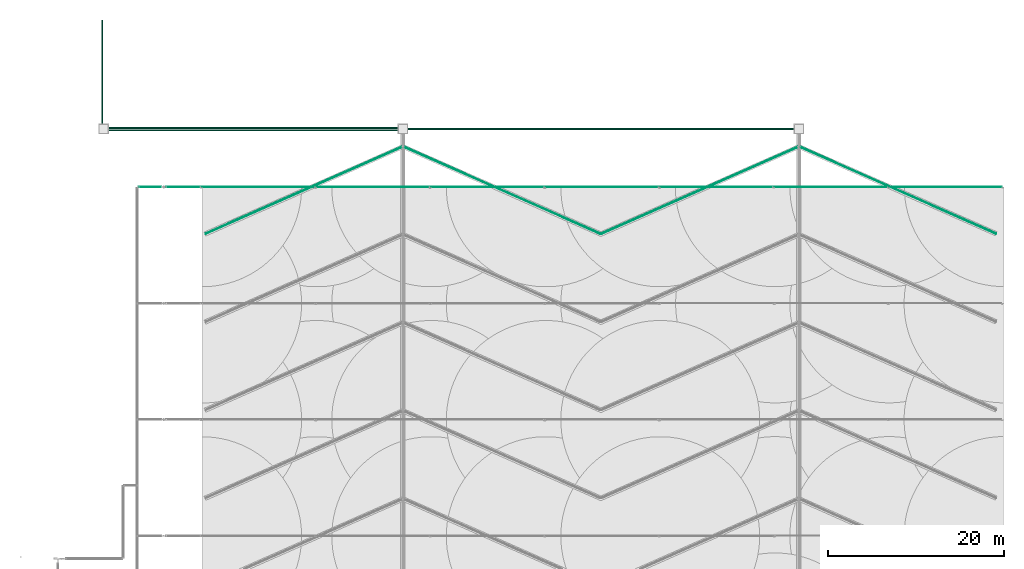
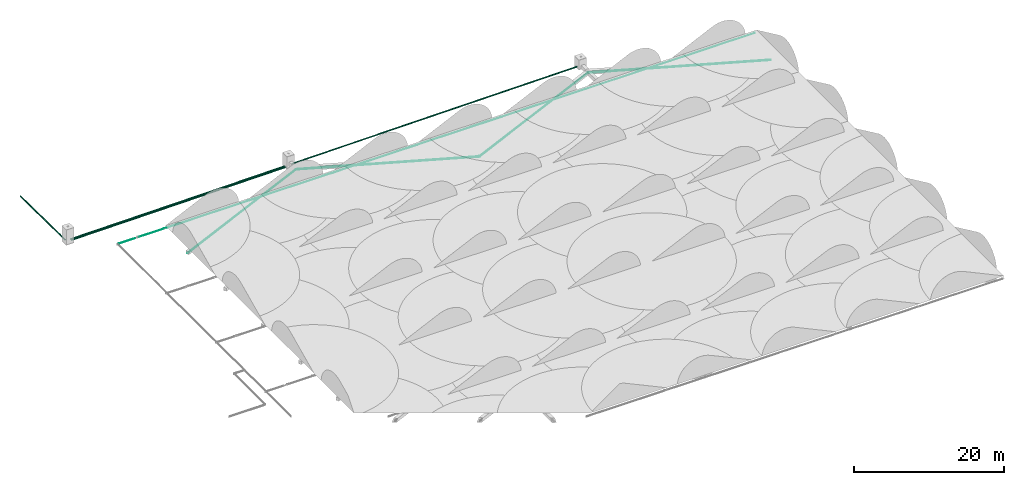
# One storey, part 44 of 166: 17 flow segments.
"""IFC2X3 building model written with IfcOpenShell, lengths in metres."""

from ifc_helpers import new_model, entity, si_unit, converted_unit, direction, frame, frame_2d, origin, origin_2d_with_axis, place, context, subcontext, project, spatial, circle, extrude, type_object, element, save


model = new_model("IFC2X3")

# Units and contexts
model_context = context("Model", 3, precision=1e-05, world=origin(), true_north=direction((6.123233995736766e-17, 1.0)))
body_context = subcontext(model_context, "Body", "Model", "MODEL_VIEW")
ifc_project = project(units=[si_unit("LENGTHUNIT", "METRE"), converted_unit("PLANEANGLEUNIT", "DEGREE", entity("IfcPlaneAngleMeasure", 0.017453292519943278), si_unit("PLANEANGLEUNIT", "RADIAN"), dimensions=[0, 0, 0, 0, 0, 0, 0]), si_unit("AREAUNIT", "SQUARE_METRE")], contexts=[model_context])

# Site, building, storey
site_placement = place(None, origin())
site = spatial("IfcSite", under=ifc_project, at=site_placement, Name="Default", CompositionType="ELEMENT")
building_placement = place(site_placement, origin())
building = spatial("IfcBuilding", under=site, at=building_placement, Name="CASA DE ACOLHIDA PARA IDOSOS", CompositionType="ELEMENT")
storey_placement = place(building_placement, frame((0.0, 0.0, -1.7499999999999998)))
storey = spatial("IfcBuildingStorey", under=building, at=storey_placement, Name="IMPLANTAÇÃO DRENAGEM", CompositionType="ELEMENT", Elevation=-1.7499999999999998)

# Flow segments
pipe_segment_type_1 = type_object("IfcPipeSegmentType", Name="Tipos de tubos:PLUV_Tubo PEAD Corrugado", PredefinedType="NOTDEFINED")
flow_segment_1_placement = place(storey_placement, origin())
element("IfcFlowSegment", 1, at=flow_segment_1_placement, inside=storey, type_object=pipe_segment_type_1, Name="Tipos de tubos:PLUV_Tubo PEAD Corrugado", ObjectType="Tipos de tubos:PLUV_Tubo PEAD Corrugado", context=body_context, shape_type="SweptSolid", body=[
    extrude(circle(Radius=0.05, at=frame_2d((-3.5042028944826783e-15, -7.922169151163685e-17), x_axis=(1.0, 0.0))), frame((45.35555726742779, 43.953057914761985, -1.1500099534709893), z_axis=(-0.9144899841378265, 0.404484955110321, -0.009999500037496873), x_axis=(0.40450517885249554, 0.9145357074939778, 0.0)), (0.0, 0.0, 1.0), 24.48022857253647),
])
flow_segment_2_placement = place(storey_placement, origin())
element("IfcFlowSegment", 2, at=flow_segment_2_placement, inside=storey, type_object=pipe_segment_type_1, Name="Tipos de tubos:PLUV_Tubo PEAD Corrugado", ObjectType="Tipos de tubos:PLUV_Tubo PEAD Corrugado", context=body_context, shape_type="SweptSolid", body=[
    extrude(circle(Radius=0.05, at=origin_2d_with_axis()), frame((22.968633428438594, 53.854942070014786, -1.3947999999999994), z_axis=(-0.9144899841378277, -0.4044849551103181, 0.009999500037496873), x_axis=(0.4045051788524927, -0.9145357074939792, 0.0)), (0.0, 0.0, 1.0), 24.480228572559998),
])
flow_segment_3_placement = place(storey_placement, origin())
element("IfcFlowSegment", 3, at=flow_segment_3_placement, inside=storey, type_object=pipe_segment_type_1, Name="Tipos de tubos:PLUV_Tubo PEAD Corrugado", ObjectType="Tipos de tubos:PLUV_Tubo PEAD Corrugado", context=body_context, shape_type="SweptSolid", body=[
    extrude(circle(Radius=0.05, at=frame_2d((-2.7376585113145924e-17, -6.189194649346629e-19), x_axis=(1.0, 0.0))), frame((0.4055572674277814, 43.95305791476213, -1.1500099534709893), z_axis=(-0.9144899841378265, 0.404484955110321, -0.009999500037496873), x_axis=(0.40450517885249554, 0.9145357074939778, 0.0)), (0.0, 0.0, 1.0), 24.48022857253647),
])
flow_segment_4_placement = place(storey_placement, origin())
element("IfcFlowSegment", 4, at=flow_segment_4_placement, inside=storey, type_object=pipe_segment_type_1, Name="Tipos de tubos:PLUV_Tubo PEAD Corrugado", ObjectType="Tipos de tubos:PLUV_Tubo PEAD Corrugado", context=body_context, shape_type="SweptSolid", body=[
    extrude(circle(Radius=0.05, at=frame_2d((-7.922565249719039e-15, 3.5040276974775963e-17), x_axis=(1.0, 0.0))), frame((-21.981366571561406, 53.85494207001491, -1.3947999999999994), z_axis=(-0.9144899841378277, -0.4044849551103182, 0.009999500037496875), x_axis=(0.40450517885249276, -0.9145357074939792, 0.0)), (0.0, 0.0, 1.0), 24.480228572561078),
])
pipe_segment_type_2 = type_object("IfcPipeSegmentType", Name="Tipos de tubos:PLUV_Tubo Série Reforçada", PredefinedType="NOTDEFINED")
flow_segment_5_placement = place(storey_placement, origin())
element("IfcFlowSegment", 5, at=flow_segment_5_placement, inside=storey, type_object=pipe_segment_type_2, Name="Tipos de tubos:PLUV_Tubo Série Reforçada", ObjectType="Tipos de tubos:PLUV_Tubo Série Reforçada", context=body_context, shape_type="SweptSolid", body=[
    extrude(circle(Radius=0.07500000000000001, at=origin_2d_with_axis()), frame((-21.491670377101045, 55.8417200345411, -1.8579217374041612), z_axis=(0.9999500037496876, 0.0, 0.0099995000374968), x_axis=(0.0, 1.0, 0.0)), (0.0, 0.0, 1.0), 43.97195522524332),
])
flow_segment_6_placement = place(storey_placement, origin())
element("IfcFlowSegment", 6, at=flow_segment_6_placement, inside=storey, type_object=pipe_segment_type_2, Name="Tipos de tubos:PLUV_Tubo Série Reforçada", ObjectType="Tipos de tubos:PLUV_Tubo Série Reforçada", context=body_context, shape_type="SweptSolid", body=[
    extrude(circle(Radius=0.07500000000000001, at=origin_2d_with_axis()), frame((-55.468366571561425, 55.954692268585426, -2.2879), z_axis=(0.9999500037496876, 0.0, 0.009999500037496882), x_axis=(0.0, 1.0, 0.0)), (0.0, 0.0, 1.0), 33.00164995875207),
])
flow_segment_7_placement = place(storey_placement, origin())
element("IfcFlowSegment", 7, at=flow_segment_7_placement, inside=storey, type_object=pipe_segment_type_2, Name="Tipos de tubos:PLUV_Tubo Série Reforçada", ObjectType="Tipos de tubos:PLUV_Tubo Série Reforçada", context=body_context, shape_type="SweptSolid", body=[
    extrude(circle(Radius=0.07500000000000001, at=frame_2d((0.0, 8.66250392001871e-17), x_axis=(1.0, 0.0))), frame((-56.11636657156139, 68.21669226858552, -2.5068045), z_axis=(0.0, -0.9999500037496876, 0.009999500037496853), x_axis=(1.0, 0.0, 0.0)), (0.0, 0.0, 1.0), 11.89104450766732),
])
flow_segment_8_placement = place(storey_placement, origin())
element("IfcFlowSegment", 8, at=flow_segment_8_placement, inside=storey, type_object=pipe_segment_type_2, Name="Tipos de tubos:PLUV_Tubo Série Reforçada", ObjectType="Tipos de tubos:PLUV_Tubo Série Reforçada", context=body_context, shape_type="SweptSolid", body=[
    extrude(circle(Radius=0.07500000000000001, at=origin_2d_with_axis()), frame((-55.468366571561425, 55.694692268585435, -2.2879), z_axis=(0.9999500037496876, 0.0, 0.009999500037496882), x_axis=(0.0, 1.0, 0.0)), (0.0, 0.0, 1.0), 33.00164995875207),
])
pipe_segment_type_3 = type_object("IfcPipeSegmentType", Name="Tipos de tubos:AF_Tubo Marrom Soldável", PredefinedType="NOTDEFINED")
flow_segment_9_placement = place(storey_placement, origin())
element("IfcFlowSegment", 9, at=flow_segment_9_placement, inside=storey, type_object=pipe_segment_type_3, Name="Tipos de tubos:AF_Tubo Marrom Soldável", ObjectType="Tipos de tubos:AF_Tubo Marrom Soldável", context=body_context, shape_type="SweptSolid", body=[
    extrude(circle(Radius=0.025, at=frame_2d((0.0, -2.707167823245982e-16), x_axis=(1.0, 0.0))), frame((-51.954303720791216, 49.254942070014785, -0.2000000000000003), z_axis=(1.0, 0.0, 0.0), x_axis=(0.0, -1.0, 0.0)), (0.0, 0.0, 1.0), 2.5378500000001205),
])
flow_segment_10_placement = place(storey_placement, origin())
element("IfcFlowSegment", 10, at=flow_segment_10_placement, inside=storey, type_object=pipe_segment_type_3, Name="Tipos de tubos:AF_Tubo Marrom Soldável", ObjectType="Tipos de tubos:AF_Tubo Marrom Soldável", context=body_context, shape_type="SweptSolid", body=[
    extrude(circle(Radius=0.025, at=frame_2d((0.0, -2.707167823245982e-16), x_axis=(1.0, 0.0))), frame((-48.842341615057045, 49.254942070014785, -0.2000000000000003), z_axis=(1.0, 0.0, 0.0), x_axis=(0.0, -1.0, 0.0)), (0.0, 0.0, 1.0), 3.8187927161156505),
])
flow_segment_11_placement = place(storey_placement, origin())
element("IfcFlowSegment", 11, at=flow_segment_11_placement, inside=storey, type_object=pipe_segment_type_3, Name="Tipos de tubos:AF_Tubo Marrom Soldável", ObjectType="Tipos de tubos:AF_Tubo Marrom Soldável", context=body_context, shape_type="SweptSolid", body=[
    extrude(circle(Radius=0.025, at=frame_2d((0.0, -2.707167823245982e-16), x_axis=(1.0, 0.0))), frame((-44.958348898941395, 49.254942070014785, -0.19999999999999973), z_axis=(1.0, 0.0, 0.0), x_axis=(0.0, -1.0, 0.0)), (0.0, 0.0, 1.0), 12.934799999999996),
])
flow_segment_12_placement = place(storey_placement, origin())
element("IfcFlowSegment", 12, at=flow_segment_12_placement, inside=storey, type_object=pipe_segment_type_3, Name="Tipos de tubos:AF_Tubo Marrom Soldável", ObjectType="Tipos de tubos:AF_Tubo Marrom Soldável", context=body_context, shape_type="SweptSolid", body=[
    extrude(circle(Radius=0.025, at=frame_2d((0.0, -2.707167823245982e-16), x_axis=(1.0, 0.0))), frame((-31.958348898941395, 49.25494207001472, -0.19999999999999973), z_axis=(1.0, 0.0, 0.0), x_axis=(0.0, -1.0, 0.0)), (0.0, 0.0, 1.0), 12.9348),
])
flow_segment_13_placement = place(storey_placement, origin())
element("IfcFlowSegment", 13, at=flow_segment_13_placement, inside=storey, type_object=pipe_segment_type_3, Name="Tipos de tubos:AF_Tubo Marrom Soldável", ObjectType="Tipos de tubos:AF_Tubo Marrom Soldável", context=body_context, shape_type="SweptSolid", body=[
    extrude(circle(Radius=0.025, at=frame_2d((0.0, -2.707167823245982e-16), x_axis=(1.0, 0.0))), frame((-18.958348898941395, 49.25494207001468, -0.19999999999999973), z_axis=(1.0, 0.0, 0.0), x_axis=(0.0, -1.0, 0.0)), (0.0, 0.0, 1.0), 12.9348),
])
flow_segment_14_placement = place(storey_placement, origin())
element("IfcFlowSegment", 14, at=flow_segment_14_placement, inside=storey, type_object=pipe_segment_type_3, Name="Tipos de tubos:AF_Tubo Marrom Soldável", ObjectType="Tipos de tubos:AF_Tubo Marrom Soldável", context=body_context, shape_type="SweptSolid", body=[
    extrude(circle(Radius=0.025, at=frame_2d((0.0, -2.707167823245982e-16), x_axis=(1.0, 0.0))), frame((-5.958348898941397, 49.25494207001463, -0.19999999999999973), z_axis=(1.0, 0.0, 0.0), x_axis=(0.0, -1.0, 0.0)), (0.0, 0.0, 1.0), 12.9348),
])
flow_segment_15_placement = place(storey_placement, origin())
element("IfcFlowSegment", 15, at=flow_segment_15_placement, inside=storey, type_object=pipe_segment_type_3, Name="Tipos de tubos:AF_Tubo Marrom Soldável", ObjectType="Tipos de tubos:AF_Tubo Marrom Soldável", context=body_context, shape_type="SweptSolid", body=[
    extrude(circle(Radius=0.016, at=frame_2d((0.0, -2.707167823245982e-16), x_axis=(1.0, 0.0))), frame((7.082445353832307, 49.25494207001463, -0.19999999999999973), z_axis=(1.0, 0.0, 0.0), x_axis=(0.0, -1.0, 0.0)), (0.0, 0.0, 1.0), 12.903905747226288),
])
flow_segment_16_placement = place(storey_placement, origin())
element("IfcFlowSegment", 16, at=flow_segment_16_placement, inside=storey, type_object=pipe_segment_type_3, Name="Tipos de tubos:AF_Tubo Marrom Soldável", ObjectType="Tipos de tubos:AF_Tubo Marrom Soldável", context=body_context, shape_type="SweptSolid", body=[
    extrude(circle(Radius=0.0125, at=origin_2d_with_axis()), frame((20.034753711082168, 49.254942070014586, -0.19999999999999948), z_axis=(1.0, 0.0, 0.0), x_axis=(0.0, -1.0, 0.0)), (0.0, 0.0, 1.0), 12.95839738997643),
])
flow_segment_17_placement = place(storey_placement, origin())
element("IfcFlowSegment", 17, at=flow_segment_17_placement, inside=storey, type_object=pipe_segment_type_3, Name="Tipos de tubos:AF_Tubo Marrom Soldável", ObjectType="Tipos de tubos:AF_Tubo Marrom Soldável", context=body_context, shape_type="SweptSolid", body=[
    extrude(circle(Radius=0.0125, at=origin_2d_with_axis()), frame((33.0249511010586, 49.25494207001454, -0.19999999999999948), z_axis=(1.0, 0.0, 0.0), x_axis=(0.0, -1.0, 0.0)), (0.0, 0.0, 1.0), 12.966099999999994),
])

save(model, "model.ifc")
